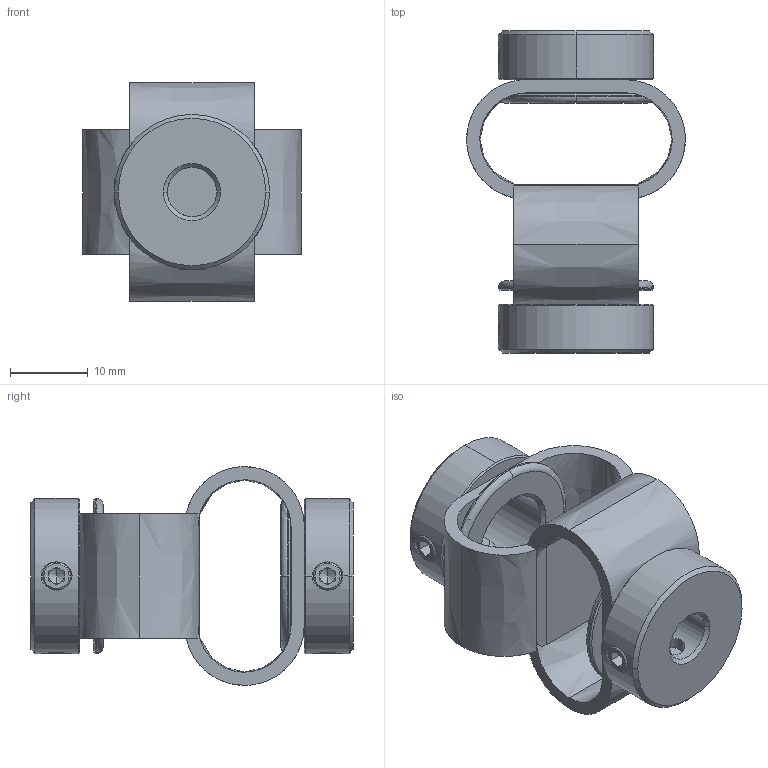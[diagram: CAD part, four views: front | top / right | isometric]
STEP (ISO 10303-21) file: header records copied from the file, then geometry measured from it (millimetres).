
FILE_DESCRIPTION (( 'STEP AP203' ), '1' );
FILE_NAME ('LS-D-D27L40-6.35-11.STEP', '2021-10-28T06:35:40', ( '' ), ( '' ), 'SwSTEP 2.0', 'SolidWorks 2018', '' );
FILE_SCHEMA (( 'CONFIG_CONTROL_DESIGN' ));
Length unit declared in the file: millimetre
Products named in the file (1): LS-D-D27L40-6.35-11
Bounding box: 28.2 x 41.54 x 28.2 mm (x, y, z)
Volume: 6702.4 mm3; surface area: 6697.2 mm2
Topology: 1 solids, 1 shells, 214 faces, 544 edges, 336 vertices
Faces by surface type: plane 86, cone 74, cylinder 34, bspline 16, torus 4
Entity records: 8391 total; most frequent: CARTESIAN_POINT 3327, ORIENTED_EDGE 1072, DIRECTION 990, EDGE_CURVE 536, AXIS2_PLACEMENT_3D 389, VERTEX_POINT 336, EDGE_LOOP 242, FACE_OUTER_BOUND 214
